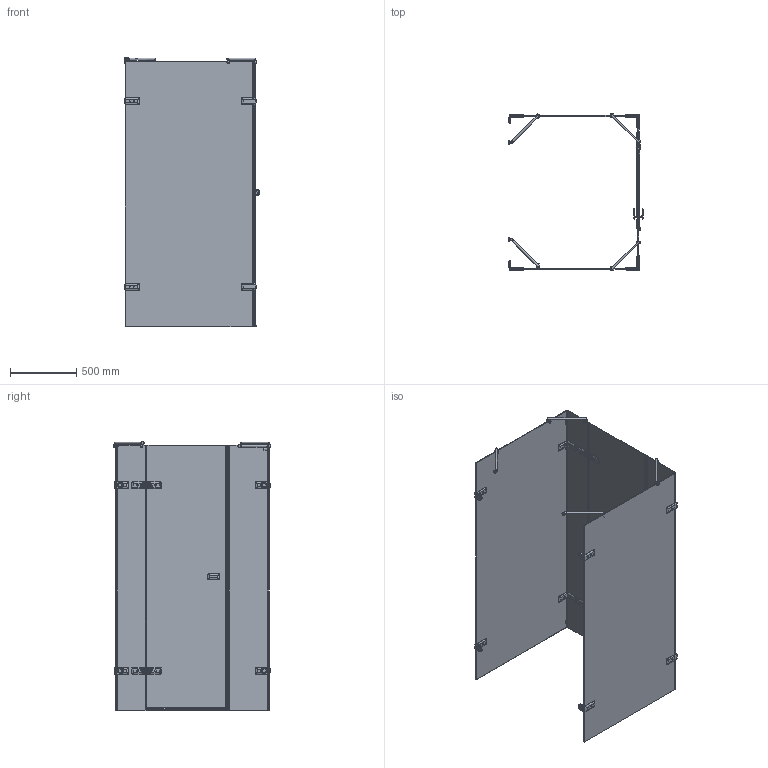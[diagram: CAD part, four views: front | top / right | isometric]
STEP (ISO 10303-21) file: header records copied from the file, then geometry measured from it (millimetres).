
FILE_DESCRIPTION(/* description */ (''),/* implementation_level */ '2;1');
FILE_NAME(/* name */ 'D:\2\TREND RECTAN GK-865A\TREND RECTAN GK-865A правая модель\TREND RECTAN GK-865A ПРАВАЯ-3D.stp',/* time_stamp */ '2020-04-08T20:02:05+03:00',/* author */ ('User'),/* organization */ (''),/* preprocessor_version */ 'ST-DEVELOPER v15.2',/* originating_system */ 'Autodesk Inventor 2014',/* authorisation */ '');
FILE_SCHEMA (('AUTOMOTIVE_DESIGN { 1 0 10303 214 3 1 1 }'));
Products named in the file (1): TREND RECTAN GK-865A ПРАВАЯ-
3D
Bounding box: 1012.5 x 1184 x 2031.5 mm (x, y, z)
Volume: 39017415.2 mm3; surface area: 13033503 mm2
Topology: 6 solids, 48 shells, 2038 faces, 5289 edges, 3337 vertices
Faces by surface type: plane 1081, cylinder 555, bspline 238, torus 76, cone 50, sphere 38
Full cylindrical faces by diameter (mm): 4 x2, 4.134 x2, 4.917 x8, 5 x6, 5.2 x2, 6 x6, 7.2 x4, 8 x2, 9 x8, 11 x2, 12 x6, 13 x20, 15 x4, 16 x20, 20 x8, 26 x2, 28 x4, 28.5 x4, 40 x4
Entity records: 85616 total; most frequent: CARTESIAN_POINT 36167, ORIENTED_EDGE 9816, DIRECTION 9401, EDGE_CURVE 4906, AXIS2_PLACEMENT_3D 3268, VERTEX_POINT 3236, LINE 2865, VECTOR 2865
